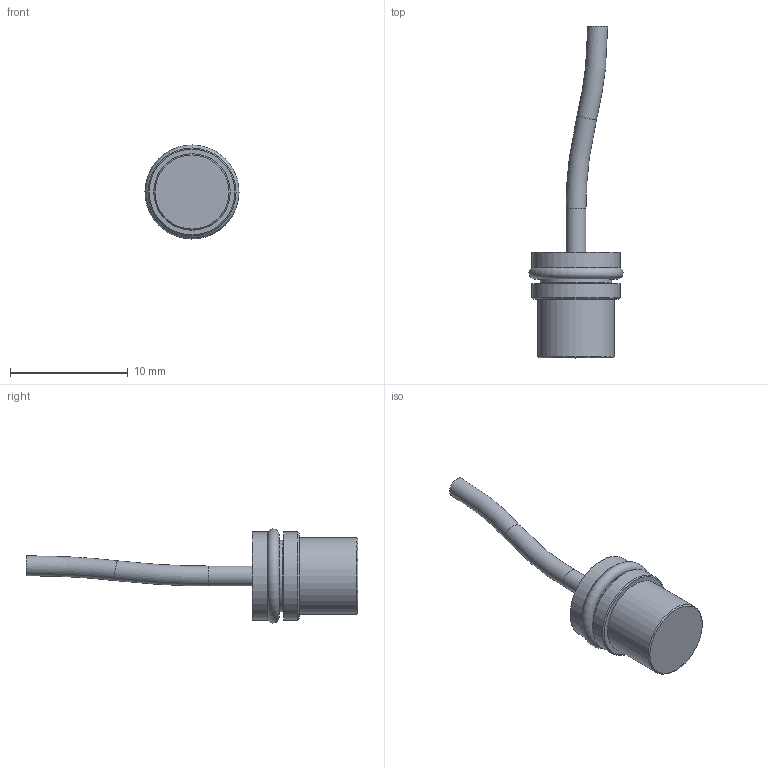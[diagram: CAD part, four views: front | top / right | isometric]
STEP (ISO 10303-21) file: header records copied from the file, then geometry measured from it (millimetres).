
FILE_DESCRIPTION( ( 'Unknown' ), '1' );
FILE_NAME( 'N:/Engineering/CAD/Wirbelstrom/Wirbelstromsensoren/CM1/CM1.stp', 'Unknown', ( 'Unknown' ), ( 'Unknown' ), 'PSStep 17.0.49', 'Unknown', ' ' );
FILE_SCHEMA( ( 'AUTOMOTIVE_DESIGN { 1 0 10303 214 1 1 1 1 }' ) );
Length unit declared in the file: millimetre
Products named in the file (4): 1; 2; 3; 4
Bounding box: 8 x 28.23 x 8 mm (x, y, z)
Surface area: 606.3 mm2 (no closed solid volume)
Topology: 0 solids, 21 shells, 21 faces, 58 edges, 44 vertices
Faces by surface type: cylinder 7, plane 7, torus 4, cone 2, revolution 1
Full cylindrical faces by diameter (mm): 0.1 x1, 1.7 x1, 5.4 x1, 6.1 x1, 6.5 x1, 7.5 x2
Entity records: 801 total; most frequent: DIRECTION 127, CARTESIAN_POINT 109, AXIS2_PLACEMENT_3D 63, FACE_BOUND 41, VERTEX_POINT 41, EDGE_LOOP 39, ORIENTED_EDGE 39, EDGE_CURVE 39
